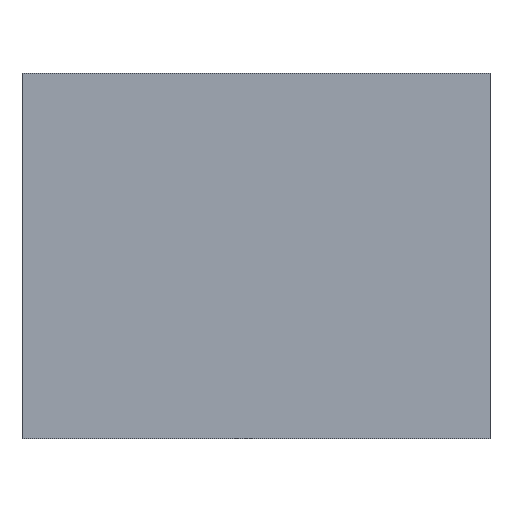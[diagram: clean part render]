
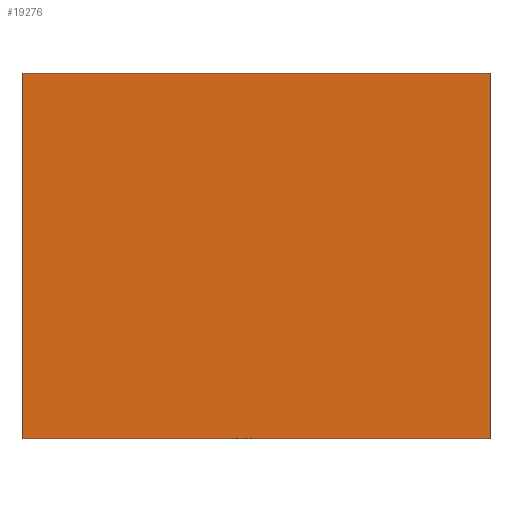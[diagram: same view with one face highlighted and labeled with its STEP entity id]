
A CAD part, front view. The second image highlights one B-rep face of the part: STEP entity #19276.
In plain terms, the highlighted planar face has unit normal (0, -1, 0).
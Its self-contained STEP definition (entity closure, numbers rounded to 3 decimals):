
#1327 = ORIENTED_EDGE ( 'NONE', *, *, #19268, .T. ) ;
#1328 = ORIENTED_EDGE ( 'NONE', *, *, #18806, .T. ) ;
#1329 = ORIENTED_EDGE ( 'NONE', *, *, #18809, .T. ) ;
#1330 = ORIENTED_EDGE ( 'NONE', *, *, #18812, .T. ) ;
#2125 = VERTEX_POINT ( 'NONE', #18217 ) ;
#2255 = VERTEX_POINT ( 'NONE', #18344 ) ;
#2256 = VERTEX_POINT ( 'NONE', #18345 ) ;
#2259 = VERTEX_POINT ( 'NONE', #18348 ) ;
#14613 = EDGE_LOOP ( 'NONE', ( #1327, #1328, #1329, #1330 ) ) ;
#18217 = CARTESIAN_POINT ( 'NONE',  ( 10.821, -6.23, 8.338 ) ) ;
#18344 = CARTESIAN_POINT ( 'NONE',  ( -10.821, -6.23, 8.338 ) ) ;
#18345 = CARTESIAN_POINT ( 'NONE',  ( -10.821, -6.23, -8.561 ) ) ;
#18348 = CARTESIAN_POINT ( 'NONE',  ( 10.821, -6.23, -8.561 ) ) ;
#18806 = EDGE_CURVE ( 'NONE', #2256, #2259, #26342, .T. ) ;
#18809 = EDGE_CURVE ( 'NONE', #2259, #2125, #26383, .T. ) ;
#18812 = EDGE_CURVE ( 'NONE', #2125, #2255, #26386, .T. ) ;
#19268 = EDGE_CURVE ( 'NONE', #2255, #2256, #27331, .T. ) ;
#19276 = ADVANCED_FACE ( 'NONE', ( #27410 ), #27412, .F. ) ;
#25977 = VECTOR ( 'NONE', #26387, 39.37 ) ;
#25979 = VECTOR ( 'NONE', #26395, 39.37 ) ;
#25981 = VECTOR ( 'NONE', #26404, 39.37 ) ;
#26342 = LINE ( 'NONE', #26385, #25977 ) ;
#26383 = LINE ( 'NONE', #26394, #25979 ) ;
#26385 = CARTESIAN_POINT ( 'NONE',  ( -10.821, -6.23, -8.561 ) ) ;
#26386 = LINE ( 'NONE', #26403, #25981 ) ;
#26387 = DIRECTION ( 'NONE',  ( 1., 0., 0. ) ) ;
#26394 = CARTESIAN_POINT ( 'NONE',  ( 10.821, -6.23, -8.561 ) ) ;
#26395 = DIRECTION ( 'NONE',  ( 0., 0., 1. ) ) ;
#26403 = CARTESIAN_POINT ( 'NONE',  ( -10.821, -6.23, 8.338 ) ) ;
#26404 = DIRECTION ( 'NONE',  ( -1., 0., 0. ) ) ;
#27331 = LINE ( 'NONE', #27334, #28500 ) ;
#27334 = CARTESIAN_POINT ( 'NONE',  ( -10.821, -6.23, -8.561 ) ) ;
#27336 = DIRECTION ( 'NONE',  ( 0., 0., -1. ) ) ;
#27404 = CARTESIAN_POINT ( 'NONE',  ( 26.051, -6.23, -1.31 ) ) ;
#27410 = FACE_OUTER_BOUND ( 'NONE', #14613, .T. ) ;
#27412 = PLANE ( 'NONE',  #28507 ) ;
#27416 = DIRECTION ( 'NONE',  ( 0., 1., 0. ) ) ;
#27417 = DIRECTION ( 'NONE',  ( 0., 0., -1. ) ) ;
#28500 = VECTOR ( 'NONE', #27336, 39.37 ) ;
#28507 = AXIS2_PLACEMENT_3D ( 'NONE', #27404, #27416, #27417 ) ;
